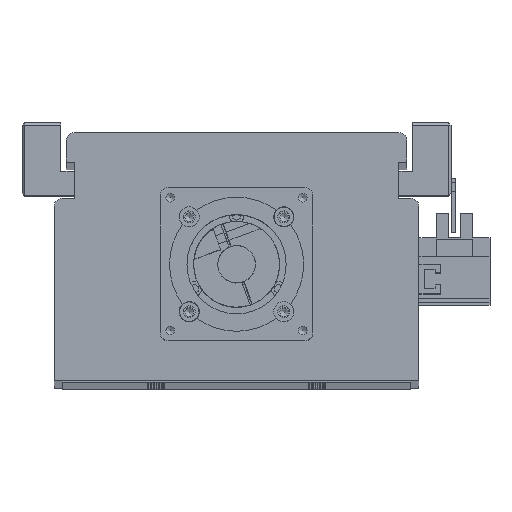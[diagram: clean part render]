
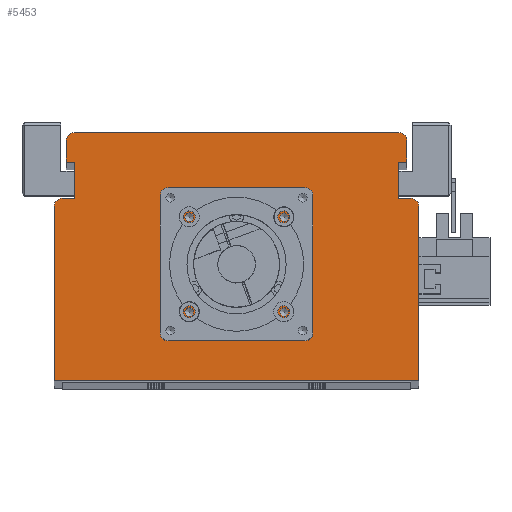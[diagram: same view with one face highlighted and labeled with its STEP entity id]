
A CAD part, top view. The second image highlights one B-rep face of the part: STEP entity #5453.
In plain terms, the highlighted planar face has unit normal (0, 0, 1).
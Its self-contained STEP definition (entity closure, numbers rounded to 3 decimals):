
#4011=CARTESIAN_POINT('',(19.321,61.5,1595.));
#4012=VERTEX_POINT('',#4011);
#4013=CARTESIAN_POINT('',(17.7,61.5,1595.));
#4014=DIRECTION('',(0.0,0.0,-1.0));
#4015=DIRECTION('',(1.0,0.0,0.0));
#4016=AXIS2_PLACEMENT_3D('',#4013,#4014,#4015);
#4017=CIRCLE('',#4016,1.621);
#4018=EDGE_CURVE('',#4012,#4012,#4017,.T.);
#4090=CARTESIAN_POINT('',(19.321,26.1,1595.));
#4091=VERTEX_POINT('',#4090);
#4092=CARTESIAN_POINT('',(17.7,26.1,1595.));
#4093=DIRECTION('',(0.0,0.0,-1.0));
#4094=DIRECTION('',(1.0,0.0,0.0));
#4095=AXIS2_PLACEMENT_3D('',#4092,#4093,#4094);
#4096=CIRCLE('',#4095,1.621);
#4097=EDGE_CURVE('',#4091,#4091,#4096,.T.);
#4169=CARTESIAN_POINT('',(-16.079,26.1,1595.));
#4170=VERTEX_POINT('',#4169);
#4171=CARTESIAN_POINT('',(-17.7,26.1,1595.));
#4172=DIRECTION('',(0.0,0.0,-1.0));
#4173=DIRECTION('',(1.0,0.0,0.0));
#4174=AXIS2_PLACEMENT_3D('',#4171,#4172,#4173);
#4175=CIRCLE('',#4174,1.621);
#4176=EDGE_CURVE('',#4170,#4170,#4175,.T.);
#4248=CARTESIAN_POINT('',(-16.079,61.5,1595.));
#4249=VERTEX_POINT('',#4248);
#4250=CARTESIAN_POINT('',(-17.7,61.5,1595.));
#4251=DIRECTION('',(0.0,0.0,-1.0));
#4252=DIRECTION('',(1.0,0.0,0.0));
#4253=AXIS2_PLACEMENT_3D('',#4250,#4251,#4252);
#4254=CIRCLE('',#4253,1.621);
#4255=EDGE_CURVE('',#4249,#4249,#4254,.T.);
#4289=CARTESIAN_POINT('',(26.5,43.8,1595.));
#4290=VERTEX_POINT('',#4289);
#4291=CARTESIAN_POINT('',(24.5,43.8,1595.));
#4292=DIRECTION('',(0.0,0.0,-1.0));
#4293=DIRECTION('',(1.0,0.0,0.0));
#4294=AXIS2_PLACEMENT_3D('',#4291,#4292,#4293);
#4295=CIRCLE('',#4294,2.0);
#4296=EDGE_CURVE('',#4290,#4290,#4295,.T.);
#4338=CARTESIAN_POINT('',(-22.5,43.8,1595.));
#4339=VERTEX_POINT('',#4338);
#4340=CARTESIAN_POINT('',(-24.5,43.8,1595.));
#4341=DIRECTION('',(0.0,0.0,-1.0));
#4342=DIRECTION('',(1.0,0.0,0.0));
#4343=AXIS2_PLACEMENT_3D('',#4340,#4341,#4342);
#4344=CIRCLE('',#4343,2.0);
#4345=EDGE_CURVE('',#4339,#4339,#4344,.T.);
#5269=CARTESIAN_POINT('',(21.05,43.8,1595.));
#5270=VERTEX_POINT('',#5269);
#5271=CARTESIAN_POINT('',(0.0,43.8,1595.));
#5272=DIRECTION('',(0.0,0.0,-1.0));
#5273=DIRECTION('',(-1.0,0.0,0.0));
#5274=AXIS2_PLACEMENT_3D('',#5271,#5272,#5273);
#5275=CIRCLE('',#5274,21.05);
#5276=EDGE_CURVE('',#5270,#5270,#5275,.T.);
#5293=CARTESIAN_POINT('',(0.,29.533,1595.));
#5294=DIRECTION('',(0.0,0.0,1.0));
#5295=DIRECTION('',(1.0,0.0,0.0));
#5296=AXIS2_PLACEMENT_3D('',#5293,#5294,#5295);
#5297=PLANE('',#5296);
#5298=CARTESIAN_POINT('',(-65.,68.5,1595.));
#5299=VERTEX_POINT('',#5298);
#5300=CARTESIAN_POINT('',(-60.5,68.5,1595.));
#5301=VERTEX_POINT('',#5300);
#5302=CARTESIAN_POINT('',(-65.,68.5,1595.));
#5303=DIRECTION('',(1.0,0.0,0.));
#5304=VECTOR('',#5303,4.5);
#5305=LINE('',#5302,#5304);
#5306=EDGE_CURVE('',#5299,#5301,#5305,.T.);
#5307=ORIENTED_EDGE('',*,*,#5306,.F.);
#5308=CARTESIAN_POINT('',(-68.,65.5,1595.));
#5309=VERTEX_POINT('',#5308);
#5310=CARTESIAN_POINT('',(-65.,65.5,1595.0));
#5311=DIRECTION('',(0.0,0.0,-1.0));
#5312=DIRECTION('',(0.0,1.0,0.0));
#5313=AXIS2_PLACEMENT_3D('',#5310,#5311,#5312);
#5314=CIRCLE('',#5313,3.);
#5315=EDGE_CURVE('',#5309,#5299,#5314,.T.);
#5316=ORIENTED_EDGE('',*,*,#5315,.F.);
#5317=CARTESIAN_POINT('',(-68.0,0.5,1595.));
#5318=VERTEX_POINT('',#5317);
#5319=CARTESIAN_POINT('',(-68.0,0.5,1595.));
#5320=DIRECTION('',(0.0,1.0,0.0));
#5321=VECTOR('',#5320,65.0);
#5322=LINE('',#5319,#5321);
#5323=EDGE_CURVE('',#5318,#5309,#5322,.T.);
#5324=ORIENTED_EDGE('',*,*,#5323,.F.);
#5325=CARTESIAN_POINT('',(68.0,0.5,1595.));
#5326=VERTEX_POINT('',#5325);
#5327=CARTESIAN_POINT('',(68.0,0.5,1595.));
#5328=DIRECTION('',(-1.0,0.0,0.0));
#5329=VECTOR('',#5328,136.0);
#5330=LINE('',#5327,#5329);
#5331=EDGE_CURVE('',#5326,#5318,#5330,.T.);
#5332=ORIENTED_EDGE('',*,*,#5331,.F.);
#5333=CARTESIAN_POINT('',(68.0,65.5,1595.));
#5334=VERTEX_POINT('',#5333);
#5335=CARTESIAN_POINT('',(68.0,65.5,1595.));
#5336=DIRECTION('',(0.0,-1.0,0.0));
#5337=VECTOR('',#5336,65.0);
#5338=LINE('',#5335,#5337);
#5339=EDGE_CURVE('',#5334,#5326,#5338,.T.);
#5340=ORIENTED_EDGE('',*,*,#5339,.F.);
#5341=CARTESIAN_POINT('',(65.,68.5,1595.));
#5342=VERTEX_POINT('',#5341);
#5343=CARTESIAN_POINT('',(65.,65.5,1595.0));
#5344=DIRECTION('',(0.0,0.0,-1.0));
#5345=DIRECTION('',(1.0,0.0,0.0));
#5346=AXIS2_PLACEMENT_3D('',#5343,#5344,#5345);
#5347=CIRCLE('',#5346,3.);
#5348=EDGE_CURVE('',#5342,#5334,#5347,.T.);
#5349=ORIENTED_EDGE('',*,*,#5348,.F.);
#5350=CARTESIAN_POINT('',(60.5,68.5,1595.));
#5351=VERTEX_POINT('',#5350);
#5352=CARTESIAN_POINT('',(60.5,68.5,1595.));
#5353=DIRECTION('',(1.0,0.0,0.));
#5354=VECTOR('',#5353,4.5);
#5355=LINE('',#5352,#5354);
#5356=EDGE_CURVE('',#5351,#5342,#5355,.T.);
#5357=ORIENTED_EDGE('',*,*,#5356,.F.);
#5358=CARTESIAN_POINT('',(60.5,82.,1595.));
#5359=VERTEX_POINT('',#5358);
#5360=CARTESIAN_POINT('',(60.5,82.,1595.));
#5361=DIRECTION('',(0.0,-1.0,0.0));
#5362=VECTOR('',#5361,13.5);
#5363=LINE('',#5360,#5362);
#5364=EDGE_CURVE('',#5359,#5351,#5363,.T.);
#5365=ORIENTED_EDGE('',*,*,#5364,.F.);
#5366=CARTESIAN_POINT('',(63.5,82.,1595.));
#5367=VERTEX_POINT('',#5366);
#5368=CARTESIAN_POINT('',(63.5,82.,1595.));
#5369=DIRECTION('',(-1.0,0.0,0.0));
#5370=VECTOR('',#5369,3.0);
#5371=LINE('',#5368,#5370);
#5372=EDGE_CURVE('',#5367,#5359,#5371,.T.);
#5373=ORIENTED_EDGE('',*,*,#5372,.F.);
#5374=CARTESIAN_POINT('',(63.5,90.0,1595.));
#5375=VERTEX_POINT('',#5374);
#5376=CARTESIAN_POINT('',(63.5,90.0,1595.));
#5377=DIRECTION('',(0.0,-1.0,0.0));
#5378=VECTOR('',#5377,8.);
#5379=LINE('',#5376,#5378);
#5380=EDGE_CURVE('',#5375,#5367,#5379,.T.);
#5381=ORIENTED_EDGE('',*,*,#5380,.F.);
#5382=CARTESIAN_POINT('',(60.5,93.,1595.));
#5383=VERTEX_POINT('',#5382);
#5384=CARTESIAN_POINT('',(60.5,90.0,1595.0));
#5385=DIRECTION('',(0.0,0.0,-1.0));
#5386=DIRECTION('',(1.0,0.0,0.0));
#5387=AXIS2_PLACEMENT_3D('',#5384,#5385,#5386);
#5388=CIRCLE('',#5387,3.);
#5389=EDGE_CURVE('',#5383,#5375,#5388,.T.);
#5390=ORIENTED_EDGE('',*,*,#5389,.F.);
#5391=CARTESIAN_POINT('',(-60.5,93.0,1595.));
#5392=VERTEX_POINT('',#5391);
#5393=CARTESIAN_POINT('',(-60.5,93.0,1595.));
#5394=DIRECTION('',(1.0,0.0,0.0));
#5395=VECTOR('',#5394,121.0);
#5396=LINE('',#5393,#5395);
#5397=EDGE_CURVE('',#5392,#5383,#5396,.T.);
#5398=ORIENTED_EDGE('',*,*,#5397,.F.);
#5399=CARTESIAN_POINT('',(-63.5,90.0,1595.));
#5400=VERTEX_POINT('',#5399);
#5401=CARTESIAN_POINT('',(-60.5,90.0,1595.0));
#5402=DIRECTION('',(0.0,0.0,-1.0));
#5403=DIRECTION('',(0.0,1.0,0.0));
#5404=AXIS2_PLACEMENT_3D('',#5401,#5402,#5403);
#5405=CIRCLE('',#5404,3.);
#5406=EDGE_CURVE('',#5400,#5392,#5405,.T.);
#5407=ORIENTED_EDGE('',*,*,#5406,.F.);
#5408=CARTESIAN_POINT('',(-63.5,82.,1595.));
#5409=VERTEX_POINT('',#5408);
#5410=CARTESIAN_POINT('',(-63.5,82.,1595.));
#5411=DIRECTION('',(0.0,1.0,0.0));
#5412=VECTOR('',#5411,8.);
#5413=LINE('',#5410,#5412);
#5414=EDGE_CURVE('',#5409,#5400,#5413,.T.);
#5415=ORIENTED_EDGE('',*,*,#5414,.F.);
#5416=CARTESIAN_POINT('',(-60.5,82.,1595.));
#5417=VERTEX_POINT('',#5416);
#5418=CARTESIAN_POINT('',(-60.5,82.,1595.));
#5419=DIRECTION('',(-1.0,0.0,0.0));
#5420=VECTOR('',#5419,3.);
#5421=LINE('',#5418,#5420);
#5422=EDGE_CURVE('',#5417,#5409,#5421,.T.);
#5423=ORIENTED_EDGE('',*,*,#5422,.F.);
#5424=CARTESIAN_POINT('',(-60.5,68.5,1595.));
#5425=DIRECTION('',(0.0,1.0,0.0));
#5426=VECTOR('',#5425,13.5);
#5427=LINE('',#5424,#5426);
#5428=EDGE_CURVE('',#5301,#5417,#5427,.T.);
#5429=ORIENTED_EDGE('',*,*,#5428,.F.);
#5430=EDGE_LOOP('',(#5307,#5316,#5324,#5332,#5340,#5349,#5357,#5365,#5373,#5381,#5390,#5398,#5407,#5415,#5423,#5429));
#5431=FACE_OUTER_BOUND('',#5430,.T.);
#5432=ORIENTED_EDGE('',*,*,#4018,.T.);
#5433=EDGE_LOOP('',(#5432));
#5434=FACE_BOUND('',#5433,.T.);
#5435=ORIENTED_EDGE('',*,*,#4097,.T.);
#5436=EDGE_LOOP('',(#5435));
#5437=FACE_BOUND('',#5436,.T.);
#5438=ORIENTED_EDGE('',*,*,#4176,.T.);
#5439=EDGE_LOOP('',(#5438));
#5440=FACE_BOUND('',#5439,.T.);
#5441=ORIENTED_EDGE('',*,*,#4255,.T.);
#5442=EDGE_LOOP('',(#5441));
#5443=FACE_BOUND('',#5442,.T.);
#5444=ORIENTED_EDGE('',*,*,#4296,.T.);
#5445=EDGE_LOOP('',(#5444));
#5446=FACE_BOUND('',#5445,.T.);
#5447=ORIENTED_EDGE('',*,*,#4345,.T.);
#5448=EDGE_LOOP('',(#5447));
#5449=FACE_BOUND('',#5448,.T.);
#5450=ORIENTED_EDGE('',*,*,#5276,.T.);
#5451=EDGE_LOOP('',(#5450));
#5452=FACE_BOUND('',#5451,.T.);
#5453=ADVANCED_FACE('',(#5431,#5434,#5437,#5440,#5443,#5446,#5449,#5452),#5297,.T.);
